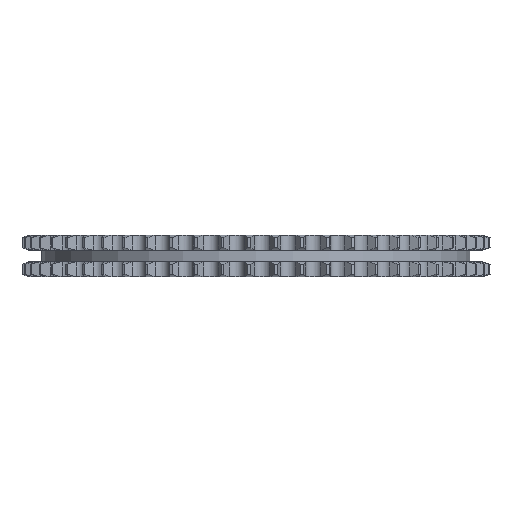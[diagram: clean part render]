
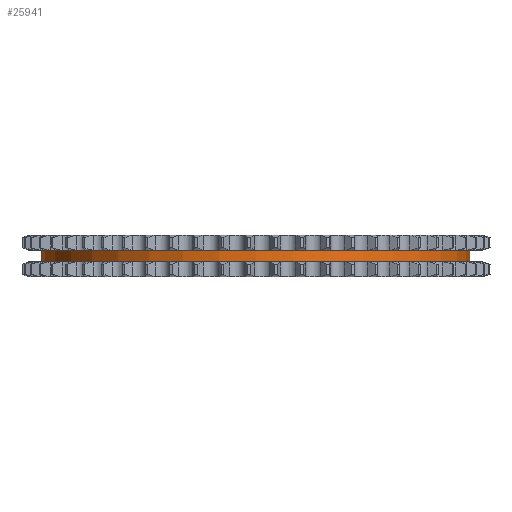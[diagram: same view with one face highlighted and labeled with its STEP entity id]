
A CAD part, left-side view. The second image highlights one B-rep face of the part: STEP entity #25941.
In plain terms, the highlighted cylindrical face has radius 155.845 mm (diameter 311.691 mm), a partial arc.
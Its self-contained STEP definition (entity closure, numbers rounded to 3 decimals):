
#4906=DIRECTION('',(0.,0.,-1.));
#4907=VECTOR('',#4906,8.1);
#4908=CARTESIAN_POINT('',(0.,155.845,4.05));
#4909=LINE('',#4908,#4907);
#4913=CARTESIAN_POINT('',(0.,0.,4.05));
#4914=DIRECTION('',(0.,0.,1.));
#4915=DIRECTION('',(0.,1.,0.));
#4916=AXIS2_PLACEMENT_3D('',#4913,#4914,#4915);
#4921=DIRECTION('',(0.,0.,-1.));
#4922=VECTOR('',#4921,8.1);
#4923=CARTESIAN_POINT('',(0.,-155.845,4.05));
#4924=LINE('',#4923,#4922);
#4928=CARTESIAN_POINT('',(0.,0.,-4.05));
#4929=DIRECTION('',(0.,0.,1.));
#4930=DIRECTION('',(0.,1.,0.));
#4931=AXIS2_PLACEMENT_3D('',#4928,#4929,#4930);
#20514=CARTESIAN_POINT('',(0.,155.845,4.05));
#20515=CARTESIAN_POINT('',(0.,155.845,-4.05));
#20516=VERTEX_POINT('',#20514);
#20517=VERTEX_POINT('',#20515);
#20518=CARTESIAN_POINT('',(0.,-155.845,4.05));
#20519=CARTESIAN_POINT('',(0.,-155.845,-4.05));
#20520=VERTEX_POINT('',#20518);
#20521=VERTEX_POINT('',#20519);
#25929=CARTESIAN_POINT('',(0.,0.,4.455));
#25930=DIRECTION('',(0.,0.,-1.));
#25931=DIRECTION('',(0.,-1.,0.));
#25932=AXIS2_PLACEMENT_3D('',#25929,#25930,#25931);
#25933=CYLINDRICAL_SURFACE('',#25932,155.845);
#25934=ORIENTED_EDGE('',*,*,#25919,.F.);
#25935=ORIENTED_EDGE('',*,*,#25909,.T.);
#25936=ORIENTED_EDGE('',*,*,#25923,.T.);
#25938=ORIENTED_EDGE('',*,*,#25937,.F.);
#25939=EDGE_LOOP('',(#25934,#25935,#25936,#25938));
#25940=FACE_OUTER_BOUND('',#25939,.F.);
#25941=ADVANCED_FACE('',(#25940),#25933,.T.);
#4917=CIRCLE('',#4916,155.845);
#4932=CIRCLE('',#4931,155.845);
#25909=EDGE_CURVE('',#20516,#20520,#4917,.T.);
#25919=EDGE_CURVE('',#20516,#20517,#4909,.T.);
#25923=EDGE_CURVE('',#20520,#20521,#4924,.T.);
#25937=EDGE_CURVE('',#20517,#20521,#4932,.T.);
